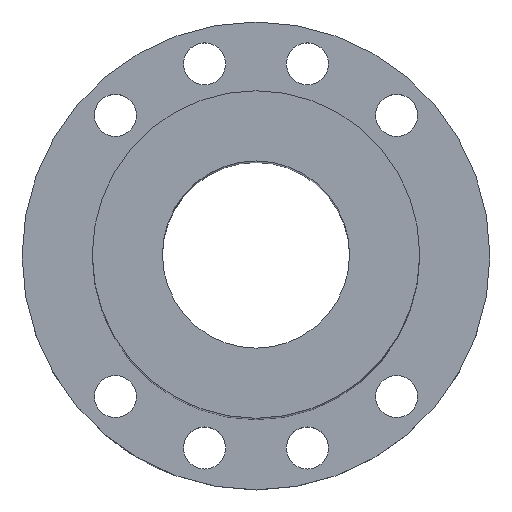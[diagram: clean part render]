
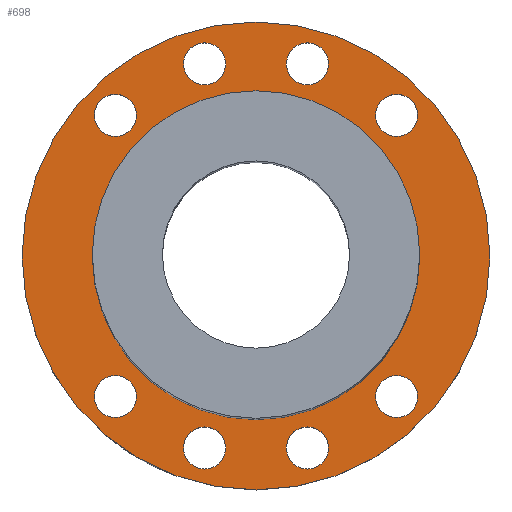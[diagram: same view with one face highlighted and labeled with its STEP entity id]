
A CAD part, top view. The second image highlights one B-rep face of the part: STEP entity #698.
In plain terms, the highlighted planar face has unit normal (0, 0, 1).
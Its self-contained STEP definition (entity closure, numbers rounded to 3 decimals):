
#121=CARTESIAN_POINT('',(0.,0.,14.));
#122=DIRECTION('',(0.,0.,1.));
#123=DIRECTION('',(1.,0.,0.));
#124=AXIS2_PLACEMENT_3D('',#121,#122,#123);
#126=CARTESIAN_POINT('',(0.,0.,14.));
#127=DIRECTION('',(0.,0.,1.));
#128=DIRECTION('',(-1.,0.,0.));
#129=AXIS2_PLACEMENT_3D('',#126,#127,#128);
#131=CARTESIAN_POINT('',(0.,0.,14.));
#132=DIRECTION('',(0.,0.,-1.));
#133=DIRECTION('',(1.,0.,0.));
#134=AXIS2_PLACEMENT_3D('',#131,#132,#133);
#136=CARTESIAN_POINT('',(0.,0.,14.));
#137=DIRECTION('',(0.,0.,-1.));
#138=DIRECTION('',(-1.,0.,0.));
#139=AXIS2_PLACEMENT_3D('',#136,#137,#138);
#141=CARTESIAN_POINT('',(11.,41.052,14.));
#142=DIRECTION('',(0.,0.,-1.));
#143=DIRECTION('',(-1.,0.,0.));
#144=AXIS2_PLACEMENT_3D('',#141,#142,#143);
#146=CARTESIAN_POINT('',(11.,41.052,14.));
#147=DIRECTION('',(0.,0.,-1.));
#148=DIRECTION('',(1.,0.,0.));
#149=AXIS2_PLACEMENT_3D('',#146,#147,#148);
#151=CARTESIAN_POINT('',(11.,-41.052,14.));
#152=DIRECTION('',(0.,0.,-1.));
#153=DIRECTION('',(-1.,0.,0.));
#154=AXIS2_PLACEMENT_3D('',#151,#152,#153);
#156=CARTESIAN_POINT('',(11.,-41.052,14.));
#157=DIRECTION('',(0.,0.,-1.));
#158=DIRECTION('',(1.,0.,0.));
#159=AXIS2_PLACEMENT_3D('',#156,#157,#158);
#161=CARTESIAN_POINT('',(-11.,41.052,14.));
#162=DIRECTION('',(0.,0.,-1.));
#163=DIRECTION('',(1.,0.,0.));
#164=AXIS2_PLACEMENT_3D('',#161,#162,#163);
#166=CARTESIAN_POINT('',(-11.,41.052,14.));
#167=DIRECTION('',(0.,0.,-1.));
#168=DIRECTION('',(-1.,0.,0.));
#169=AXIS2_PLACEMENT_3D('',#166,#167,#168);
#171=CARTESIAN_POINT('',(-11.,-41.052,14.));
#172=DIRECTION('',(0.,0.,-1.));
#173=DIRECTION('',(1.,0.,0.));
#174=AXIS2_PLACEMENT_3D('',#171,#172,#173);
#176=CARTESIAN_POINT('',(-11.,-41.052,14.));
#177=DIRECTION('',(0.,0.,-1.));
#178=DIRECTION('',(-1.,0.,0.));
#179=AXIS2_PLACEMENT_3D('',#176,#177,#178);
#181=CARTESIAN_POINT('',(-30.052,-30.052,14.));
#182=DIRECTION('',(0.,0.,-1.));
#183=DIRECTION('',(1.,0.,0.));
#184=AXIS2_PLACEMENT_3D('',#181,#182,#183);
#186=CARTESIAN_POINT('',(-30.052,-30.052,14.));
#187=DIRECTION('',(0.,0.,-1.));
#188=DIRECTION('',(-1.,0.,0.));
#189=AXIS2_PLACEMENT_3D('',#186,#187,#188);
#191=CARTESIAN_POINT('',(-30.052,30.052,14.));
#192=DIRECTION('',(0.,0.,-1.));
#193=DIRECTION('',(1.,0.,0.));
#194=AXIS2_PLACEMENT_3D('',#191,#192,#193);
#196=CARTESIAN_POINT('',(-30.052,30.052,14.));
#197=DIRECTION('',(0.,0.,-1.));
#198=DIRECTION('',(-1.,0.,0.));
#199=AXIS2_PLACEMENT_3D('',#196,#197,#198);
#201=CARTESIAN_POINT('',(30.052,-30.052,14.));
#202=DIRECTION('',(0.,0.,-1.));
#203=DIRECTION('',(-1.,0.,0.));
#204=AXIS2_PLACEMENT_3D('',#201,#202,#203);
#206=CARTESIAN_POINT('',(30.052,-30.052,14.));
#207=DIRECTION('',(0.,0.,-1.));
#208=DIRECTION('',(1.,0.,0.));
#209=AXIS2_PLACEMENT_3D('',#206,#207,#208);
#211=CARTESIAN_POINT('',(30.052,30.052,14.));
#212=DIRECTION('',(0.,0.,-1.));
#213=DIRECTION('',(-1.,0.,0.));
#214=AXIS2_PLACEMENT_3D('',#211,#212,#213);
#216=CARTESIAN_POINT('',(30.052,30.052,14.));
#217=DIRECTION('',(0.,0.,-1.));
#218=DIRECTION('',(1.,0.,0.));
#219=AXIS2_PLACEMENT_3D('',#216,#217,#218);
#403=CARTESIAN_POINT('',(50.,0.,14.));
#405=VERTEX_POINT('',#403);
#407=CARTESIAN_POINT('',(-50.,0.,14.));
#409=VERTEX_POINT('',#407);
#411=CARTESIAN_POINT('',(-35.,0.,14.));
#412=CARTESIAN_POINT('',(35.,0.,14.));
#413=VERTEX_POINT('',#411);
#414=VERTEX_POINT('',#412);
#419=CARTESIAN_POINT('',(34.552,-30.052,14.));
#421=VERTEX_POINT('',#419);
#423=CARTESIAN_POINT('',(25.552,-30.052,14.));
#425=VERTEX_POINT('',#423);
#427=CARTESIAN_POINT('',(-25.552,30.052,14.));
#429=VERTEX_POINT('',#427);
#431=CARTESIAN_POINT('',(-34.552,30.052,14.));
#433=VERTEX_POINT('',#431);
#435=CARTESIAN_POINT('',(-25.552,-30.052,14.));
#437=VERTEX_POINT('',#435);
#439=CARTESIAN_POINT('',(-34.552,-30.052,14.));
#441=VERTEX_POINT('',#439);
#443=CARTESIAN_POINT('',(-6.5,-41.052,14.));
#445=VERTEX_POINT('',#443);
#447=CARTESIAN_POINT('',(-15.5,-41.052,14.));
#449=VERTEX_POINT('',#447);
#451=CARTESIAN_POINT('',(-6.5,41.052,14.));
#453=VERTEX_POINT('',#451);
#455=CARTESIAN_POINT('',(-15.5,41.052,14.));
#457=VERTEX_POINT('',#455);
#459=CARTESIAN_POINT('',(15.5,-41.052,14.));
#461=VERTEX_POINT('',#459);
#463=CARTESIAN_POINT('',(6.5,-41.052,14.));
#465=VERTEX_POINT('',#463);
#467=CARTESIAN_POINT('',(15.5,41.052,14.));
#469=VERTEX_POINT('',#467);
#471=CARTESIAN_POINT('',(6.5,41.052,14.));
#473=VERTEX_POINT('',#471);
#475=CARTESIAN_POINT('',(34.552,30.052,14.));
#477=VERTEX_POINT('',#475);
#479=CARTESIAN_POINT('',(25.552,30.052,14.));
#481=VERTEX_POINT('',#479);
#635=CARTESIAN_POINT('',(3.667,13.684,14.));
#636=DIRECTION('',(0.,0.,1.));
#637=DIRECTION('',(1.,0.,0.));
#638=AXIS2_PLACEMENT_3D('',#635,#636,#637);
#639=PLANE('',#638);
#640=ORIENTED_EDGE('',*,*,#516,.F.);
#642=ORIENTED_EDGE('',*,*,#641,.F.);
#643=EDGE_LOOP('',(#640,#642));
#644=FACE_OUTER_BOUND('',#643,.F.);
#646=ORIENTED_EDGE('',*,*,#645,.F.);
#647=ORIENTED_EDGE('',*,*,#625,.F.);
#648=EDGE_LOOP('',(#646,#647));
#649=FACE_BOUND('',#648,.F.);
#651=ORIENTED_EDGE('',*,*,#650,.F.);
#653=ORIENTED_EDGE('',*,*,#652,.F.);
#654=EDGE_LOOP('',(#651,#653));
#655=FACE_BOUND('',#654,.F.);
#657=ORIENTED_EDGE('',*,*,#656,.F.);
#659=ORIENTED_EDGE('',*,*,#658,.F.);
#660=EDGE_LOOP('',(#657,#659));
#661=FACE_BOUND('',#660,.F.);
#663=ORIENTED_EDGE('',*,*,#662,.F.);
#665=ORIENTED_EDGE('',*,*,#664,.F.);
#666=EDGE_LOOP('',(#663,#665));
#667=FACE_BOUND('',#666,.F.);
#669=ORIENTED_EDGE('',*,*,#668,.F.);
#671=ORIENTED_EDGE('',*,*,#670,.F.);
#672=EDGE_LOOP('',(#669,#671));
#673=FACE_BOUND('',#672,.F.);
#675=ORIENTED_EDGE('',*,*,#674,.F.);
#677=ORIENTED_EDGE('',*,*,#676,.F.);
#678=EDGE_LOOP('',(#675,#677));
#679=FACE_BOUND('',#678,.F.);
#681=ORIENTED_EDGE('',*,*,#680,.F.);
#683=ORIENTED_EDGE('',*,*,#682,.F.);
#684=EDGE_LOOP('',(#681,#683));
#685=FACE_BOUND('',#684,.F.);
#687=ORIENTED_EDGE('',*,*,#686,.F.);
#689=ORIENTED_EDGE('',*,*,#688,.F.);
#690=EDGE_LOOP('',(#687,#689));
#691=FACE_BOUND('',#690,.F.);
#693=ORIENTED_EDGE('',*,*,#692,.F.);
#695=ORIENTED_EDGE('',*,*,#694,.F.);
#696=EDGE_LOOP('',(#693,#695));
#697=FACE_BOUND('',#696,.F.);
#698=ADVANCED_FACE('',(#644,#649,#655,#661,#667,#673,#679,#685,#691,#697),#639,
.T.);
#125=CIRCLE('',#124,50.);
#130=CIRCLE('',#129,50.);
#135=CIRCLE('',#134,35.);
#140=CIRCLE('',#139,35.);
#145=CIRCLE('',#144,4.5);
#150=CIRCLE('',#149,4.5);
#155=CIRCLE('',#154,4.5);
#160=CIRCLE('',#159,4.5);
#165=CIRCLE('',#164,4.5);
#170=CIRCLE('',#169,4.5);
#175=CIRCLE('',#174,4.5);
#180=CIRCLE('',#179,4.5);
#185=CIRCLE('',#184,4.5);
#190=CIRCLE('',#189,4.5);
#195=CIRCLE('',#194,4.5);
#200=CIRCLE('',#199,4.5);
#205=CIRCLE('',#204,4.5);
#210=CIRCLE('',#209,4.5);
#215=CIRCLE('',#214,4.5);
#220=CIRCLE('',#219,4.5);
#516=EDGE_CURVE('',#405,#409,#125,.T.);
#625=EDGE_CURVE('',#413,#414,#140,.T.);
#641=EDGE_CURVE('',#409,#405,#130,.T.);
#645=EDGE_CURVE('',#414,#413,#135,.T.);
#650=EDGE_CURVE('',#473,#469,#145,.T.);
#652=EDGE_CURVE('',#469,#473,#150,.T.);
#656=EDGE_CURVE('',#465,#461,#155,.T.);
#658=EDGE_CURVE('',#461,#465,#160,.T.);
#662=EDGE_CURVE('',#453,#457,#165,.T.);
#664=EDGE_CURVE('',#457,#453,#170,.T.);
#668=EDGE_CURVE('',#445,#449,#175,.T.);
#670=EDGE_CURVE('',#449,#445,#180,.T.);
#674=EDGE_CURVE('',#437,#441,#185,.T.);
#676=EDGE_CURVE('',#441,#437,#190,.T.);
#680=EDGE_CURVE('',#429,#433,#195,.T.);
#682=EDGE_CURVE('',#433,#429,#200,.T.);
#686=EDGE_CURVE('',#425,#421,#205,.T.);
#688=EDGE_CURVE('',#421,#425,#210,.T.);
#692=EDGE_CURVE('',#481,#477,#215,.T.);
#694=EDGE_CURVE('',#477,#481,#220,.T.);
